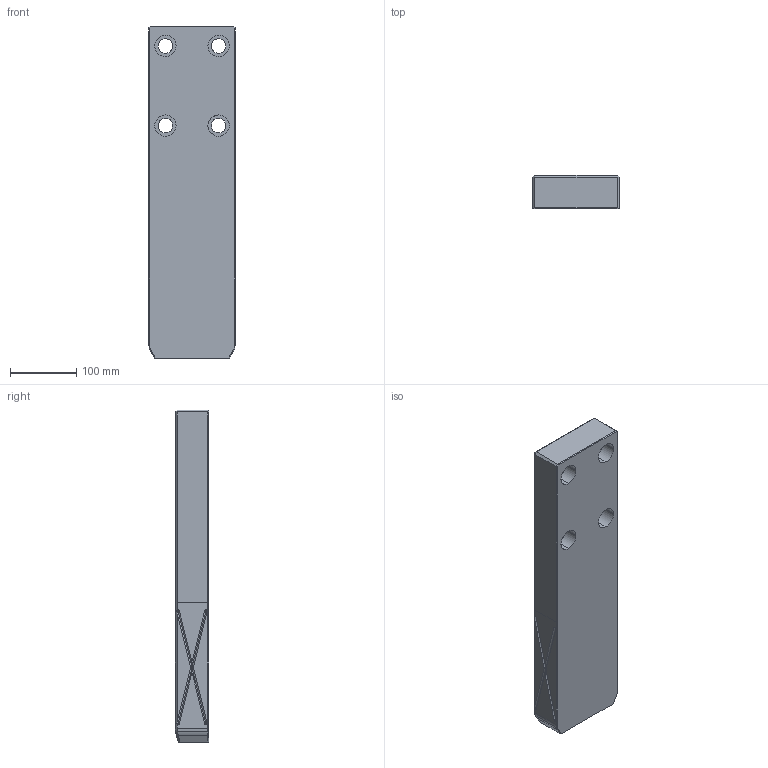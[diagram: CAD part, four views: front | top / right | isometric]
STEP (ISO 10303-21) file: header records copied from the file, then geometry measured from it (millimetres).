
FILE_DESCRIPTION(('CATIA V5 STEP Exchange'),'2;1');
FILE_NAME('D:\temp\color-modify-100929\GWB_6644-6654_R00\3d_gwb130-210-500_6651_r00.stp','2010-09-29T05:19:32+00:00',('none'),('none'),'CATIA Version 5 Release 18 SP 5 (IN-10)','CATIA V5 STEP AP214','none');
FILE_SCHEMA(('AUTOMOTIVE_DESIGN { 1 0 10303 214 1 1 1 1 }'));
Length unit declared in the file: millimetre
Products named in the file (1): GWB130-210-500
Bounding box: 130 x 50 x 500 mm (x, y, z)
Volume: 3109930.4 mm3; surface area: 205919.8 mm2
Topology: 1 solids, 1 shells, 139 faces, 361 edges, 206 vertices
Faces by surface type: cylinder 66, plane 39, revolution 24, bspline 6, cone 4
Entity records: 5214 total; most frequent: CARTESIAN_POINT 2250, ORIENTED_EDGE 674, DIRECTION 441, EDGE_CURVE 337, VERTEX_POINT 206, B_SPLINE_CURVE_WITH_KNOTS 162, AXIS2_PLACEMENT_3D 157, EDGE_LOOP 153
